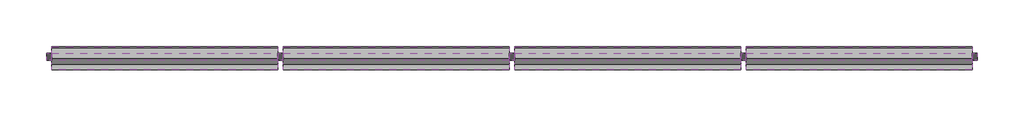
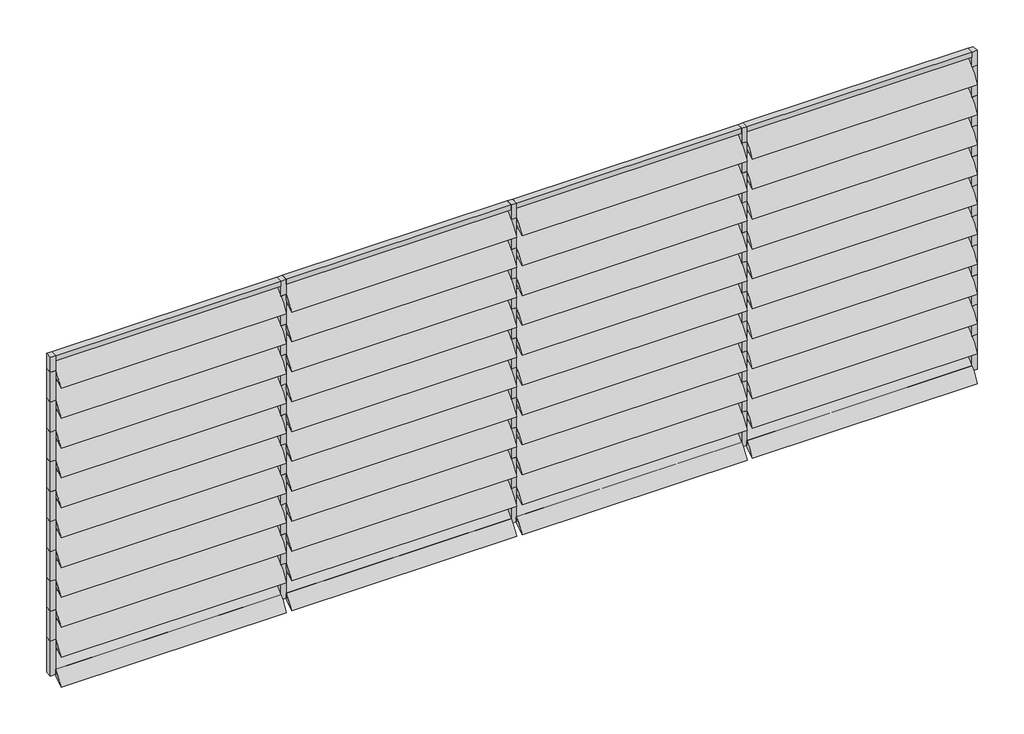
# One storey: 63 members, 44 plates.
"""IFC4 building model written with IfcOpenShell, lengths in millimetres."""

from ifc_helpers import new_model, si_unit, origin, place, context, project, spatial, transform, mapped, element, save
from components import rectangular_mullion_50mm_x_65mm_98092e04, rectangular_mullion_50mm_x_65mm_1a03be0f, rectangular_mullion_50mm_x_65mm_1b69131a, rectangular_mullion_50mm_x_65mm_203c95b3, rectangular_mullion_50mm_x_65mm_badf7e47, rectangular_mullion_50mm_x_65mm_3efa6989, rectangular_mullion_50mm_x_65mm_dbc77acd, arq_painel_brise_horizontal_arq_painel_brise_horizontal_309e50f0

model = new_model("IFC4")

# Units and contexts
model_context = context("Model", 3, world=origin())
ifc_project = project(units=[si_unit("LENGTHUNIT", "METRE", prefix="MILLI")], contexts=[model_context])

# Site, building, storey
site = spatial("IfcSite", under=ifc_project)
building = spatial("IfcBuilding", under=site)
storey = spatial("IfcBuildingStorey", under=building, Name="Nível 1", Elevation=0.0)

# Members
placement = place(None, origin())
rectangular_mullion_50mm_x_65mm_shape = rectangular_mullion_50mm_x_65mm_98092e04(model_context)
element("IfcMember", 1, ObjectType="Rectangular Mullion : 50mm x 65mm", at=placement, inside=storey, context=model_context, shape_type="MappedRepresentation", body=[
    mapped(rectangular_mullion_50mm_x_65mm_shape, transform((5463.4597769, 397.5999507, 3200.0), x_axis=(0.0, 0.0, 1.0), y_axis=(0.0, -1.0, 0.0), z_axis=(1.0, 0.0, 0.0))),
])
element("IfcMember", 2, ObjectType="Rectangular Mullion : 50mm x 65mm", at=placement, inside=storey, context=model_context, shape_type="MappedRepresentation", body=[
    mapped(rectangular_mullion_50mm_x_65mm_shape, transform((-1099.040223, 397.5999507, 3200.0), x_axis=(0.0, 0.0, 1.0), y_axis=(0.0, -1.0, 0.0), z_axis=(1.0, 0.0, 0.0))),
])
element("IfcMember", 3, ObjectType="Rectangular Mullion : 50mm x 65mm", at=placement, inside=storey, context=model_context, shape_type="MappedRepresentation", body=[
    mapped(rectangular_mullion_50mm_x_65mm_shape, transform((1088.4597769, 397.5999507, 3200.0), x_axis=(0.0, 0.0, 1.0), y_axis=(0.0, -1.0, 0.0), z_axis=(1.0, 0.0, 0.0))),
])
element("IfcMember", 4, ObjectType="Rectangular Mullion : 50mm x 65mm", at=placement, inside=storey, context=model_context, shape_type="MappedRepresentation", body=[
    mapped(rectangular_mullion_50mm_x_65mm_shape, transform((3275.9597767, 397.5999507, 3200.0), x_axis=(0.0, 0.0, 1.0), y_axis=(0.0, -1.0, 0.0), z_axis=(1.0, 0.0, 0.0))),
])
element("IfcMember", 5, ObjectType="Rectangular Mullion : 50mm x 65mm", at=placement, inside=storey, context=model_context, shape_type="MappedRepresentation", body=[
    mapped(rectangular_mullion_50mm_x_65mm_shape, transform((-3236.5402231, 397.5999507, 0.0), x_axis=(0.0, 0.0, -1.0), y_axis=(0.0, -1.0, 0.0), z_axis=(-1.0, 0.0, 0.0))),
])
element("IfcMember", 6, ObjectType="Rectangular Mullion : 50mm x 65mm", at=placement, inside=storey, context=model_context, shape_type="MappedRepresentation", body=[
    mapped(rectangular_mullion_50mm_x_65mm_shape, transform((-1049.040223, 397.5999507, 0.0), x_axis=(0.0, 0.0, -1.0), y_axis=(0.0, -1.0, 0.0), z_axis=(-1.0, 0.0, 0.0))),
])
element("IfcMember", 7, ObjectType="Rectangular Mullion : 50mm x 65mm", at=placement, inside=storey, context=model_context, shape_type="MappedRepresentation", body=[
    mapped(rectangular_mullion_50mm_x_65mm_shape, transform((1138.4597769, 397.5999507, 0.0), x_axis=(0.0, 0.0, -1.0), y_axis=(0.0, -1.0, 0.0), z_axis=(-1.0, 0.0, 0.0))),
])
element("IfcMember", 8, ObjectType="Rectangular Mullion : 50mm x 65mm", at=placement, inside=storey, context=model_context, shape_type="MappedRepresentation", body=[
    mapped(rectangular_mullion_50mm_x_65mm_shape, transform((3325.9597767, 397.5999507, 0.0), x_axis=(0.0, 0.0, -1.0), y_axis=(0.0, -1.0, 0.0), z_axis=(-1.0, 0.0, 0.0))),
])
rectangular_mullion_50mm_x_65mm_2_shape = rectangular_mullion_50mm_x_65mm_1a03be0f(model_context)
element("IfcMember", 9, ObjectType="Rectangular Mullion : 50mm x 65mm", at=placement, inside=storey, context=model_context, shape_type="MappedRepresentation", body=[
    mapped(rectangular_mullion_50mm_x_65mm_2_shape, transform((-1074.040223, 397.5999507, 0.0), x_axis=(1.0, 0.0, 0.0), y_axis=(0.0, -1.0, 0.0), z_axis=(0.0, 0.0, -1.0))),
])
element("IfcMember", 10, ObjectType="Rectangular Mullion : 50mm x 65mm", at=placement, inside=storey, context=model_context, shape_type="MappedRepresentation", body=[
    mapped(rectangular_mullion_50mm_x_65mm_2_shape, transform((1113.4597769, 397.5999507, 0.0), x_axis=(1.0, 0.0, 0.0), y_axis=(0.0, -1.0, 0.0), z_axis=(0.0, 0.0, -1.0))),
])
element("IfcMember", 11, ObjectType="Rectangular Mullion : 50mm x 65mm", at=placement, inside=storey, context=model_context, shape_type="MappedRepresentation", body=[
    mapped(rectangular_mullion_50mm_x_65mm_2_shape, transform((3300.9597767, 397.5999507, 0.0), x_axis=(1.0, 0.0, 0.0), y_axis=(0.0, -1.0, 0.0), z_axis=(0.0, 0.0, -1.0))),
])
rectangular_mullion_50mm_x_65mm_3_shape = rectangular_mullion_50mm_x_65mm_1b69131a(model_context)
element("IfcMember", 12, ObjectType="Rectangular Mullion : 50mm x 65mm", at=placement, inside=storey, context=model_context, shape_type="MappedRepresentation", body=[
    mapped(rectangular_mullion_50mm_x_65mm_3_shape, transform((-1074.040223, 397.5999507, 350.0), x_axis=(1.0, 0.0, 0.0), y_axis=(0.0, -1.0, 0.0), z_axis=(0.0, 0.0, -1.0))),
])
element("IfcMember", 13, ObjectType="Rectangular Mullion : 50mm x 65mm", at=placement, inside=storey, context=model_context, shape_type="MappedRepresentation", body=[
    mapped(rectangular_mullion_50mm_x_65mm_3_shape, transform((1113.4597769, 397.5999507, 350.0), x_axis=(1.0, 0.0, 0.0), y_axis=(0.0, -1.0, 0.0), z_axis=(0.0, 0.0, -1.0))),
])
element("IfcMember", 14, ObjectType="Rectangular Mullion : 50mm x 65mm", at=placement, inside=storey, context=model_context, shape_type="MappedRepresentation", body=[
    mapped(rectangular_mullion_50mm_x_65mm_3_shape, transform((3300.9597767, 397.5999507, 350.0), x_axis=(1.0, 0.0, 0.0), y_axis=(0.0, -1.0, 0.0), z_axis=(0.0, 0.0, -1.0))),
])
element("IfcMember", 15, ObjectType="Rectangular Mullion : 50mm x 65mm", at=placement, inside=storey, context=model_context, shape_type="MappedRepresentation", body=[
    mapped(rectangular_mullion_50mm_x_65mm_3_shape, transform((-1074.040223, 397.5999507, 650.0), x_axis=(1.0, 0.0, 0.0), y_axis=(0.0, -1.0, 0.0), z_axis=(0.0, 0.0, -1.0))),
])
element("IfcMember", 16, ObjectType="Rectangular Mullion : 50mm x 65mm", at=placement, inside=storey, context=model_context, shape_type="MappedRepresentation", body=[
    mapped(rectangular_mullion_50mm_x_65mm_3_shape, transform((1113.4597769, 397.5999507, 650.0), x_axis=(1.0, 0.0, 0.0), y_axis=(0.0, -1.0, 0.0), z_axis=(0.0, 0.0, -1.0))),
])
element("IfcMember", 17, ObjectType="Rectangular Mullion : 50mm x 65mm", at=placement, inside=storey, context=model_context, shape_type="MappedRepresentation", body=[
    mapped(rectangular_mullion_50mm_x_65mm_3_shape, transform((3300.9597767, 397.5999507, 650.0), x_axis=(1.0, 0.0, 0.0), y_axis=(0.0, -1.0, 0.0), z_axis=(0.0, 0.0, -1.0))),
])
element("IfcMember", 18, ObjectType="Rectangular Mullion : 50mm x 65mm", at=placement, inside=storey, context=model_context, shape_type="MappedRepresentation", body=[
    mapped(rectangular_mullion_50mm_x_65mm_3_shape, transform((-1074.040223, 397.5999507, 950.0), x_axis=(1.0, 0.0, 0.0), y_axis=(0.0, -1.0, 0.0), z_axis=(0.0, 0.0, -1.0))),
])
element("IfcMember", 19, ObjectType="Rectangular Mullion : 50mm x 65mm", at=placement, inside=storey, context=model_context, shape_type="MappedRepresentation", body=[
    mapped(rectangular_mullion_50mm_x_65mm_3_shape, transform((1113.4597769, 397.5999507, 950.0), x_axis=(1.0, 0.0, 0.0), y_axis=(0.0, -1.0, 0.0), z_axis=(0.0, 0.0, -1.0))),
])
element("IfcMember", 20, ObjectType="Rectangular Mullion : 50mm x 65mm", at=placement, inside=storey, context=model_context, shape_type="MappedRepresentation", body=[
    mapped(rectangular_mullion_50mm_x_65mm_3_shape, transform((3300.9597767, 397.5999507, 950.0), x_axis=(1.0, 0.0, 0.0), y_axis=(0.0, -1.0, 0.0), z_axis=(0.0, 0.0, -1.0))),
])
element("IfcMember", 21, ObjectType="Rectangular Mullion : 50mm x 65mm", at=placement, inside=storey, context=model_context, shape_type="MappedRepresentation", body=[
    mapped(rectangular_mullion_50mm_x_65mm_3_shape, transform((-1074.040223, 397.5999507, 1250.0), x_axis=(1.0, 0.0, 0.0), y_axis=(0.0, -1.0, 0.0), z_axis=(0.0, 0.0, -1.0))),
])
element("IfcMember", 22, ObjectType="Rectangular Mullion : 50mm x 65mm", at=placement, inside=storey, context=model_context, shape_type="MappedRepresentation", body=[
    mapped(rectangular_mullion_50mm_x_65mm_3_shape, transform((1113.4597769, 397.5999507, 1250.0), x_axis=(1.0, 0.0, 0.0), y_axis=(0.0, -1.0, 0.0), z_axis=(0.0, 0.0, -1.0))),
])
element("IfcMember", 23, ObjectType="Rectangular Mullion : 50mm x 65mm", at=placement, inside=storey, context=model_context, shape_type="MappedRepresentation", body=[
    mapped(rectangular_mullion_50mm_x_65mm_3_shape, transform((3300.9597767, 397.5999507, 1250.0), x_axis=(1.0, 0.0, 0.0), y_axis=(0.0, -1.0, 0.0), z_axis=(0.0, 0.0, -1.0))),
])
element("IfcMember", 24, ObjectType="Rectangular Mullion : 50mm x 65mm", at=placement, inside=storey, context=model_context, shape_type="MappedRepresentation", body=[
    mapped(rectangular_mullion_50mm_x_65mm_3_shape, transform((-1074.040223, 397.5999507, 1550.0), x_axis=(1.0, 0.0, 0.0), y_axis=(0.0, -1.0, 0.0), z_axis=(0.0, 0.0, -1.0))),
])
element("IfcMember", 25, ObjectType="Rectangular Mullion : 50mm x 65mm", at=placement, inside=storey, context=model_context, shape_type="MappedRepresentation", body=[
    mapped(rectangular_mullion_50mm_x_65mm_3_shape, transform((1113.4597769, 397.5999507, 1550.0), x_axis=(1.0, 0.0, 0.0), y_axis=(0.0, -1.0, 0.0), z_axis=(0.0, 0.0, -1.0))),
])
element("IfcMember", 26, ObjectType="Rectangular Mullion : 50mm x 65mm", at=placement, inside=storey, context=model_context, shape_type="MappedRepresentation", body=[
    mapped(rectangular_mullion_50mm_x_65mm_3_shape, transform((3300.9597767, 397.5999507, 1550.0), x_axis=(1.0, 0.0, 0.0), y_axis=(0.0, -1.0, 0.0), z_axis=(0.0, 0.0, -1.0))),
])
element("IfcMember", 27, ObjectType="Rectangular Mullion : 50mm x 65mm", at=placement, inside=storey, context=model_context, shape_type="MappedRepresentation", body=[
    mapped(rectangular_mullion_50mm_x_65mm_3_shape, transform((-1074.040223, 397.5999507, 1850.0), x_axis=(1.0, 0.0, 0.0), y_axis=(0.0, -1.0, 0.0), z_axis=(0.0, 0.0, -1.0))),
])
element("IfcMember", 28, ObjectType="Rectangular Mullion : 50mm x 65mm", at=placement, inside=storey, context=model_context, shape_type="MappedRepresentation", body=[
    mapped(rectangular_mullion_50mm_x_65mm_3_shape, transform((1113.4597769, 397.5999507, 1850.0), x_axis=(1.0, 0.0, 0.0), y_axis=(0.0, -1.0, 0.0), z_axis=(0.0, 0.0, -1.0))),
])
element("IfcMember", 29, ObjectType="Rectangular Mullion : 50mm x 65mm", at=placement, inside=storey, context=model_context, shape_type="MappedRepresentation", body=[
    mapped(rectangular_mullion_50mm_x_65mm_3_shape, transform((3300.9597767, 397.5999507, 1850.0), x_axis=(1.0, 0.0, 0.0), y_axis=(0.0, -1.0, 0.0), z_axis=(0.0, 0.0, -1.0))),
])
element("IfcMember", 30, ObjectType="Rectangular Mullion : 50mm x 65mm", at=placement, inside=storey, context=model_context, shape_type="MappedRepresentation", body=[
    mapped(rectangular_mullion_50mm_x_65mm_3_shape, transform((-1074.040223, 397.5999507, 2150.0), x_axis=(1.0, 0.0, 0.0), y_axis=(0.0, -1.0, 0.0), z_axis=(0.0, 0.0, -1.0))),
])
element("IfcMember", 31, ObjectType="Rectangular Mullion : 50mm x 65mm", at=placement, inside=storey, context=model_context, shape_type="MappedRepresentation", body=[
    mapped(rectangular_mullion_50mm_x_65mm_3_shape, transform((1113.4597769, 397.5999507, 2150.0), x_axis=(1.0, 0.0, 0.0), y_axis=(0.0, -1.0, 0.0), z_axis=(0.0, 0.0, -1.0))),
])
element("IfcMember", 32, ObjectType="Rectangular Mullion : 50mm x 65mm", at=placement, inside=storey, context=model_context, shape_type="MappedRepresentation", body=[
    mapped(rectangular_mullion_50mm_x_65mm_3_shape, transform((3300.9597767, 397.5999507, 2150.0), x_axis=(1.0, 0.0, 0.0), y_axis=(0.0, -1.0, 0.0), z_axis=(0.0, 0.0, -1.0))),
])
element("IfcMember", 33, ObjectType="Rectangular Mullion : 50mm x 65mm", at=placement, inside=storey, context=model_context, shape_type="MappedRepresentation", body=[
    mapped(rectangular_mullion_50mm_x_65mm_3_shape, transform((-1074.040223, 397.5999507, 2450.0), x_axis=(1.0, 0.0, 0.0), y_axis=(0.0, -1.0, 0.0), z_axis=(0.0, 0.0, -1.0))),
])
element("IfcMember", 34, ObjectType="Rectangular Mullion : 50mm x 65mm", at=placement, inside=storey, context=model_context, shape_type="MappedRepresentation", body=[
    mapped(rectangular_mullion_50mm_x_65mm_3_shape, transform((1113.4597769, 397.5999507, 2450.0), x_axis=(1.0, 0.0, 0.0), y_axis=(0.0, -1.0, 0.0), z_axis=(0.0, 0.0, -1.0))),
])
element("IfcMember", 35, ObjectType="Rectangular Mullion : 50mm x 65mm", at=placement, inside=storey, context=model_context, shape_type="MappedRepresentation", body=[
    mapped(rectangular_mullion_50mm_x_65mm_3_shape, transform((3300.9597767, 397.5999507, 2450.0), x_axis=(1.0, 0.0, 0.0), y_axis=(0.0, -1.0, 0.0), z_axis=(0.0, 0.0, -1.0))),
])
element("IfcMember", 36, ObjectType="Rectangular Mullion : 50mm x 65mm", at=placement, inside=storey, context=model_context, shape_type="MappedRepresentation", body=[
    mapped(rectangular_mullion_50mm_x_65mm_3_shape, transform((-1074.040223, 397.5999507, 2750.0), x_axis=(1.0, 0.0, 0.0), y_axis=(0.0, -1.0, 0.0), z_axis=(0.0, 0.0, -1.0))),
])
element("IfcMember", 37, ObjectType="Rectangular Mullion : 50mm x 65mm", at=placement, inside=storey, context=model_context, shape_type="MappedRepresentation", body=[
    mapped(rectangular_mullion_50mm_x_65mm_3_shape, transform((1113.4597769, 397.5999507, 2750.0), x_axis=(1.0, 0.0, 0.0), y_axis=(0.0, -1.0, 0.0), z_axis=(0.0, 0.0, -1.0))),
])
element("IfcMember", 38, ObjectType="Rectangular Mullion : 50mm x 65mm", at=placement, inside=storey, context=model_context, shape_type="MappedRepresentation", body=[
    mapped(rectangular_mullion_50mm_x_65mm_3_shape, transform((3300.9597767, 397.5999507, 2750.0), x_axis=(1.0, 0.0, 0.0), y_axis=(0.0, -1.0, 0.0), z_axis=(0.0, 0.0, -1.0))),
])
rectangular_mullion_50mm_x_65mm_4_shape = rectangular_mullion_50mm_x_65mm_203c95b3(model_context)
element("IfcMember", 39, ObjectType="Rectangular Mullion : 50mm x 65mm", at=placement, inside=storey, context=model_context, shape_type="MappedRepresentation", body=[
    mapped(rectangular_mullion_50mm_x_65mm_4_shape, transform((-1074.040223, 397.5999507, 3050.0), x_axis=(1.0, 0.0, 0.0), y_axis=(0.0, -1.0, 0.0), z_axis=(0.0, 0.0, -1.0))),
])
element("IfcMember", 40, ObjectType="Rectangular Mullion : 50mm x 65mm", at=placement, inside=storey, context=model_context, shape_type="MappedRepresentation", body=[
    mapped(rectangular_mullion_50mm_x_65mm_4_shape, transform((1113.4597769, 397.5999507, 3050.0), x_axis=(1.0, 0.0, 0.0), y_axis=(0.0, -1.0, 0.0), z_axis=(0.0, 0.0, -1.0))),
])
element("IfcMember", 41, ObjectType="Rectangular Mullion : 50mm x 65mm", at=placement, inside=storey, context=model_context, shape_type="MappedRepresentation", body=[
    mapped(rectangular_mullion_50mm_x_65mm_4_shape, transform((3300.9597767, 397.5999507, 3050.0), x_axis=(1.0, 0.0, 0.0), y_axis=(0.0, -1.0, 0.0), z_axis=(0.0, 0.0, -1.0))),
])
rectangular_mullion_50mm_x_65mm_5_shape = rectangular_mullion_50mm_x_65mm_badf7e47(model_context)
element("IfcMember", 42, ObjectType="Rectangular Mullion : 50mm x 65mm", at=placement, inside=storey, context=model_context, shape_type="MappedRepresentation", body=[
    mapped(rectangular_mullion_50mm_x_65mm_5_shape, transform((5513.4597769, 397.5999507, 0.0), x_axis=(1.0, 0.0, 0.0), y_axis=(0.0, -1.0, 0.0), z_axis=(0.0, 0.0, -1.0))),
])
rectangular_mullion_50mm_x_65mm_6_shape = rectangular_mullion_50mm_x_65mm_3efa6989(model_context)
element("IfcMember", 43, ObjectType="Rectangular Mullion : 50mm x 65mm", at=placement, inside=storey, context=model_context, shape_type="MappedRepresentation", body=[
    mapped(rectangular_mullion_50mm_x_65mm_6_shape, transform((-3286.5402231, 397.5999507, 3200.0), x_axis=(-1.0, 0.0, 0.0), y_axis=(0.0, -1.0, 0.0), z_axis=(0.0, 0.0, 1.0))),
])
rectangular_mullion_50mm_x_65mm_7_shape = rectangular_mullion_50mm_x_65mm_dbc77acd(model_context)
element("IfcMember", 44, ObjectType="Rectangular Mullion : 50mm x 65mm", at=placement, inside=storey, context=model_context, shape_type="MappedRepresentation", body=[
    mapped(rectangular_mullion_50mm_x_65mm_7_shape, transform((5513.4597769, 397.5999507, 350.0), x_axis=(1.0, 0.0, 0.0), y_axis=(0.0, -1.0, 0.0), z_axis=(0.0, 0.0, -1.0))),
])
element("IfcMember", 45, ObjectType="Rectangular Mullion : 50mm x 65mm", at=placement, inside=storey, context=model_context, shape_type="MappedRepresentation", body=[
    mapped(rectangular_mullion_50mm_x_65mm_7_shape, transform((5513.4597769, 397.5999507, 650.0), x_axis=(1.0, 0.0, 0.0), y_axis=(0.0, -1.0, 0.0), z_axis=(0.0, 0.0, -1.0))),
])
element("IfcMember", 46, ObjectType="Rectangular Mullion : 50mm x 65mm", at=placement, inside=storey, context=model_context, shape_type="MappedRepresentation", body=[
    mapped(rectangular_mullion_50mm_x_65mm_7_shape, transform((5513.4597769, 397.5999507, 950.0), x_axis=(1.0, 0.0, 0.0), y_axis=(0.0, -1.0, 0.0), z_axis=(0.0, 0.0, -1.0))),
])
element("IfcMember", 47, ObjectType="Rectangular Mullion : 50mm x 65mm", at=placement, inside=storey, context=model_context, shape_type="MappedRepresentation", body=[
    mapped(rectangular_mullion_50mm_x_65mm_7_shape, transform((5513.4597769, 397.5999507, 1250.0), x_axis=(1.0, 0.0, 0.0), y_axis=(0.0, -1.0, 0.0), z_axis=(0.0, 0.0, -1.0))),
])
element("IfcMember", 48, ObjectType="Rectangular Mullion : 50mm x 65mm", at=placement, inside=storey, context=model_context, shape_type="MappedRepresentation", body=[
    mapped(rectangular_mullion_50mm_x_65mm_7_shape, transform((5513.4597769, 397.5999507, 1550.0), x_axis=(1.0, 0.0, 0.0), y_axis=(0.0, -1.0, 0.0), z_axis=(0.0, 0.0, -1.0))),
])
element("IfcMember", 49, ObjectType="Rectangular Mullion : 50mm x 65mm", at=placement, inside=storey, context=model_context, shape_type="MappedRepresentation", body=[
    mapped(rectangular_mullion_50mm_x_65mm_7_shape, transform((5513.4597769, 397.5999507, 1850.0), x_axis=(1.0, 0.0, 0.0), y_axis=(0.0, -1.0, 0.0), z_axis=(0.0, 0.0, -1.0))),
])
element("IfcMember", 50, ObjectType="Rectangular Mullion : 50mm x 65mm", at=placement, inside=storey, context=model_context, shape_type="MappedRepresentation", body=[
    mapped(rectangular_mullion_50mm_x_65mm_7_shape, transform((5513.4597769, 397.5999507, 2150.0), x_axis=(1.0, 0.0, 0.0), y_axis=(0.0, -1.0, 0.0), z_axis=(0.0, 0.0, -1.0))),
])
element("IfcMember", 51, ObjectType="Rectangular Mullion : 50mm x 65mm", at=placement, inside=storey, context=model_context, shape_type="MappedRepresentation", body=[
    mapped(rectangular_mullion_50mm_x_65mm_7_shape, transform((5513.4597769, 397.5999507, 2450.0), x_axis=(1.0, 0.0, 0.0), y_axis=(0.0, -1.0, 0.0), z_axis=(0.0, 0.0, -1.0))),
])
element("IfcMember", 52, ObjectType="Rectangular Mullion : 50mm x 65mm", at=placement, inside=storey, context=model_context, shape_type="MappedRepresentation", body=[
    mapped(rectangular_mullion_50mm_x_65mm_7_shape, transform((5513.4597769, 397.5999507, 2750.0), x_axis=(1.0, 0.0, 0.0), y_axis=(0.0, -1.0, 0.0), z_axis=(0.0, 0.0, -1.0))),
])
element("IfcMember", 53, ObjectType="Rectangular Mullion : 50mm x 65mm", at=placement, inside=storey, context=model_context, shape_type="MappedRepresentation", body=[
    mapped(rectangular_mullion_50mm_x_65mm_6_shape, transform((5513.4597769, 397.5999507, 3050.0), x_axis=(1.0, 0.0, 0.0), y_axis=(0.0, -1.0, 0.0), z_axis=(0.0, 0.0, -1.0))),
])
element("IfcMember", 54, ObjectType="Rectangular Mullion : 50mm x 65mm", at=placement, inside=storey, context=model_context, shape_type="MappedRepresentation", body=[
    mapped(rectangular_mullion_50mm_x_65mm_5_shape, transform((-3286.5402231, 397.5999507, 350.0), x_axis=(-1.0, 0.0, 0.0), y_axis=(0.0, -1.0, 0.0), z_axis=(0.0, 0.0, 1.0))),
])
element("IfcMember", 55, ObjectType="Rectangular Mullion : 50mm x 65mm", at=placement, inside=storey, context=model_context, shape_type="MappedRepresentation", body=[
    mapped(rectangular_mullion_50mm_x_65mm_7_shape, transform((-3286.5402231, 397.5999507, 650.0), x_axis=(-1.0, 0.0, 0.0), y_axis=(0.0, -1.0, 0.0), z_axis=(0.0, 0.0, 1.0))),
])
element("IfcMember", 56, ObjectType="Rectangular Mullion : 50mm x 65mm", at=placement, inside=storey, context=model_context, shape_type="MappedRepresentation", body=[
    mapped(rectangular_mullion_50mm_x_65mm_7_shape, transform((-3286.5402231, 397.5999507, 950.0), x_axis=(-1.0, 0.0, 0.0), y_axis=(0.0, -1.0, 0.0), z_axis=(0.0, 0.0, 1.0))),
])
element("IfcMember", 57, ObjectType="Rectangular Mullion : 50mm x 65mm", at=placement, inside=storey, context=model_context, shape_type="MappedRepresentation", body=[
    mapped(rectangular_mullion_50mm_x_65mm_7_shape, transform((-3286.5402231, 397.5999507, 1250.0), x_axis=(-1.0, 0.0, 0.0), y_axis=(0.0, -1.0, 0.0), z_axis=(0.0, 0.0, 1.0))),
])
element("IfcMember", 58, ObjectType="Rectangular Mullion : 50mm x 65mm", at=placement, inside=storey, context=model_context, shape_type="MappedRepresentation", body=[
    mapped(rectangular_mullion_50mm_x_65mm_7_shape, transform((-3286.5402231, 397.5999507, 1550.0), x_axis=(-1.0, 0.0, 0.0), y_axis=(0.0, -1.0, 0.0), z_axis=(0.0, 0.0, 1.0))),
])
element("IfcMember", 59, ObjectType="Rectangular Mullion : 50mm x 65mm", at=placement, inside=storey, context=model_context, shape_type="MappedRepresentation", body=[
    mapped(rectangular_mullion_50mm_x_65mm_7_shape, transform((-3286.5402231, 397.5999507, 1850.0), x_axis=(-1.0, 0.0, 0.0), y_axis=(0.0, -1.0, 0.0), z_axis=(0.0, 0.0, 1.0))),
])
element("IfcMember", 60, ObjectType="Rectangular Mullion : 50mm x 65mm", at=placement, inside=storey, context=model_context, shape_type="MappedRepresentation", body=[
    mapped(rectangular_mullion_50mm_x_65mm_7_shape, transform((-3286.5402231, 397.5999507, 2150.0), x_axis=(-1.0, 0.0, 0.0), y_axis=(0.0, -1.0, 0.0), z_axis=(0.0, 0.0, 1.0))),
])
element("IfcMember", 61, ObjectType="Rectangular Mullion : 50mm x 65mm", at=placement, inside=storey, context=model_context, shape_type="MappedRepresentation", body=[
    mapped(rectangular_mullion_50mm_x_65mm_7_shape, transform((-3286.5402231, 397.5999507, 2450.0), x_axis=(-1.0, 0.0, 0.0), y_axis=(0.0, -1.0, 0.0), z_axis=(0.0, 0.0, 1.0))),
])
element("IfcMember", 62, ObjectType="Rectangular Mullion : 50mm x 65mm", at=placement, inside=storey, context=model_context, shape_type="MappedRepresentation", body=[
    mapped(rectangular_mullion_50mm_x_65mm_7_shape, transform((-3286.5402231, 397.5999507, 2750.0), x_axis=(-1.0, 0.0, 0.0), y_axis=(0.0, -1.0, 0.0), z_axis=(0.0, 0.0, 1.0))),
])
element("IfcMember", 63, ObjectType="Rectangular Mullion : 50mm x 65mm", at=placement, inside=storey, context=model_context, shape_type="MappedRepresentation", body=[
    mapped(rectangular_mullion_50mm_x_65mm_7_shape, transform((-3286.5402231, 397.5999507, 3050.0), x_axis=(-1.0, 0.0, 0.0), y_axis=(0.0, -1.0, 0.0), z_axis=(0.0, 0.0, 1.0))),
])

# Plates
arq_painel_brise_horizontal_arq_painel_brise_horizontal_shape = arq_painel_brise_horizontal_arq_painel_brise_horizontal_309e50f0(model_context)
element("IfcPlate", 64, ObjectType="ARQ_Painel_Brise_Horizontal : ARQ_Painel_Brise_Horizontal", at=placement, inside=storey, context=model_context, shape_type="MappedRepresentation", body=[
    mapped(arq_painel_brise_horizontal_arq_painel_brise_horizontal_shape, transform((-2167.7902231, 397.5999507, 50.0), x_axis=(1.0, 0.0, 0.0), y_axis=(0.0, 1.0, 0.0), z_axis=(0.0, 0.0, 1.0))),
])
element("IfcPlate", 65, ObjectType="ARQ_Painel_Brise_Horizontal : ARQ_Painel_Brise_Horizontal", at=placement, inside=storey, context=model_context, shape_type="MappedRepresentation", body=[
    mapped(arq_painel_brise_horizontal_arq_painel_brise_horizontal_shape, transform((-2167.7902231, 397.5999507, 350.0), x_axis=(1.0, 0.0, 0.0), y_axis=(0.0, 1.0, 0.0), z_axis=(0.0, 0.0, 1.0))),
])
element("IfcPlate", 66, ObjectType="ARQ_Painel_Brise_Horizontal : ARQ_Painel_Brise_Horizontal", at=placement, inside=storey, context=model_context, shape_type="MappedRepresentation", body=[
    mapped(arq_painel_brise_horizontal_arq_painel_brise_horizontal_shape, transform((-2167.7902231, 397.5999507, 650.0), x_axis=(1.0, 0.0, 0.0), y_axis=(0.0, 1.0, 0.0), z_axis=(0.0, 0.0, 1.0))),
])
element("IfcPlate", 67, ObjectType="ARQ_Painel_Brise_Horizontal : ARQ_Painel_Brise_Horizontal", at=placement, inside=storey, context=model_context, shape_type="MappedRepresentation", body=[
    mapped(arq_painel_brise_horizontal_arq_painel_brise_horizontal_shape, transform((-2167.7902231, 397.5999507, 950.0), x_axis=(1.0, 0.0, 0.0), y_axis=(0.0, 1.0, 0.0), z_axis=(0.0, 0.0, 1.0))),
])
element("IfcPlate", 68, ObjectType="ARQ_Painel_Brise_Horizontal : ARQ_Painel_Brise_Horizontal", at=placement, inside=storey, context=model_context, shape_type="MappedRepresentation", body=[
    mapped(arq_painel_brise_horizontal_arq_painel_brise_horizontal_shape, transform((-2167.7902231, 397.5999507, 1250.0), x_axis=(1.0, 0.0, 0.0), y_axis=(0.0, 1.0, 0.0), z_axis=(0.0, 0.0, 1.0))),
])
element("IfcPlate", 69, ObjectType="ARQ_Painel_Brise_Horizontal : ARQ_Painel_Brise_Horizontal", at=placement, inside=storey, context=model_context, shape_type="MappedRepresentation", body=[
    mapped(arq_painel_brise_horizontal_arq_painel_brise_horizontal_shape, transform((-2167.7902231, 397.5999507, 1550.0), x_axis=(1.0, 0.0, 0.0), y_axis=(0.0, 1.0, 0.0), z_axis=(0.0, 0.0, 1.0))),
])
element("IfcPlate", 70, ObjectType="ARQ_Painel_Brise_Horizontal : ARQ_Painel_Brise_Horizontal", at=placement, inside=storey, context=model_context, shape_type="MappedRepresentation", body=[
    mapped(arq_painel_brise_horizontal_arq_painel_brise_horizontal_shape, transform((-2167.7902231, 397.5999507, 1850.0), x_axis=(1.0, 0.0, 0.0), y_axis=(0.0, 1.0, 0.0), z_axis=(0.0, 0.0, 1.0))),
])
element("IfcPlate", 71, ObjectType="ARQ_Painel_Brise_Horizontal : ARQ_Painel_Brise_Horizontal", at=placement, inside=storey, context=model_context, shape_type="MappedRepresentation", body=[
    mapped(arq_painel_brise_horizontal_arq_painel_brise_horizontal_shape, transform((-2167.7902231, 397.5999507, 2150.0), x_axis=(1.0, 0.0, 0.0), y_axis=(0.0, 1.0, 0.0), z_axis=(0.0, 0.0, 1.0))),
])
element("IfcPlate", 72, ObjectType="ARQ_Painel_Brise_Horizontal : ARQ_Painel_Brise_Horizontal", at=placement, inside=storey, context=model_context, shape_type="MappedRepresentation", body=[
    mapped(arq_painel_brise_horizontal_arq_painel_brise_horizontal_shape, transform((-2167.7902231, 397.5999507, 2450.0), x_axis=(1.0, 0.0, 0.0), y_axis=(0.0, 1.0, 0.0), z_axis=(0.0, 0.0, 1.0))),
])
element("IfcPlate", 73, ObjectType="ARQ_Painel_Brise_Horizontal : ARQ_Painel_Brise_Horizontal", at=placement, inside=storey, context=model_context, shape_type="MappedRepresentation", body=[
    mapped(arq_painel_brise_horizontal_arq_painel_brise_horizontal_shape, transform((-2167.7902231, 397.5999507, 2750.0), x_axis=(1.0, 0.0, 0.0), y_axis=(0.0, 1.0, 0.0), z_axis=(0.0, 0.0, 1.0))),
])
element("IfcPlate", 74, ObjectType="ARQ_Painel_Brise_Horizontal : ARQ_Painel_Brise_Horizontal", at=placement, inside=storey, context=model_context, shape_type="MappedRepresentation", body=[
    mapped(arq_painel_brise_horizontal_arq_painel_brise_horizontal_shape, transform((19.7097769, 397.5999507, 50.0), x_axis=(1.0, 0.0, 0.0), y_axis=(0.0, 1.0, 0.0), z_axis=(0.0, 0.0, 1.0))),
])
element("IfcPlate", 75, ObjectType="ARQ_Painel_Brise_Horizontal : ARQ_Painel_Brise_Horizontal", at=placement, inside=storey, context=model_context, shape_type="MappedRepresentation", body=[
    mapped(arq_painel_brise_horizontal_arq_painel_brise_horizontal_shape, transform((19.7097769, 397.5999507, 350.0), x_axis=(1.0, 0.0, 0.0), y_axis=(0.0, 1.0, 0.0), z_axis=(0.0, 0.0, 1.0))),
])
element("IfcPlate", 76, ObjectType="ARQ_Painel_Brise_Horizontal : ARQ_Painel_Brise_Horizontal", at=placement, inside=storey, context=model_context, shape_type="MappedRepresentation", body=[
    mapped(arq_painel_brise_horizontal_arq_painel_brise_horizontal_shape, transform((19.7097769, 397.5999507, 650.0), x_axis=(1.0, 0.0, 0.0), y_axis=(0.0, 1.0, 0.0), z_axis=(0.0, 0.0, 1.0))),
])
element("IfcPlate", 77, ObjectType="ARQ_Painel_Brise_Horizontal : ARQ_Painel_Brise_Horizontal", at=placement, inside=storey, context=model_context, shape_type="MappedRepresentation", body=[
    mapped(arq_painel_brise_horizontal_arq_painel_brise_horizontal_shape, transform((19.7097769, 397.5999507, 950.0), x_axis=(1.0, 0.0, 0.0), y_axis=(0.0, 1.0, 0.0), z_axis=(0.0, 0.0, 1.0))),
])
element("IfcPlate", 78, ObjectType="ARQ_Painel_Brise_Horizontal : ARQ_Painel_Brise_Horizontal", at=placement, inside=storey, context=model_context, shape_type="MappedRepresentation", body=[
    mapped(arq_painel_brise_horizontal_arq_painel_brise_horizontal_shape, transform((19.7097769, 397.5999507, 1250.0), x_axis=(1.0, 0.0, 0.0), y_axis=(0.0, 1.0, 0.0), z_axis=(0.0, 0.0, 1.0))),
])
element("IfcPlate", 79, ObjectType="ARQ_Painel_Brise_Horizontal : ARQ_Painel_Brise_Horizontal", at=placement, inside=storey, context=model_context, shape_type="MappedRepresentation", body=[
    mapped(arq_painel_brise_horizontal_arq_painel_brise_horizontal_shape, transform((19.7097769, 397.5999507, 1550.0), x_axis=(1.0, 0.0, 0.0), y_axis=(0.0, 1.0, 0.0), z_axis=(0.0, 0.0, 1.0))),
])
element("IfcPlate", 80, ObjectType="ARQ_Painel_Brise_Horizontal : ARQ_Painel_Brise_Horizontal", at=placement, inside=storey, context=model_context, shape_type="MappedRepresentation", body=[
    mapped(arq_painel_brise_horizontal_arq_painel_brise_horizontal_shape, transform((19.7097769, 397.5999507, 1850.0), x_axis=(1.0, 0.0, 0.0), y_axis=(0.0, 1.0, 0.0), z_axis=(0.0, 0.0, 1.0))),
])
element("IfcPlate", 81, ObjectType="ARQ_Painel_Brise_Horizontal : ARQ_Painel_Brise_Horizontal", at=placement, inside=storey, context=model_context, shape_type="MappedRepresentation", body=[
    mapped(arq_painel_brise_horizontal_arq_painel_brise_horizontal_shape, transform((19.7097769, 397.5999507, 2150.0), x_axis=(1.0, 0.0, 0.0), y_axis=(0.0, 1.0, 0.0), z_axis=(0.0, 0.0, 1.0))),
])
element("IfcPlate", 82, ObjectType="ARQ_Painel_Brise_Horizontal : ARQ_Painel_Brise_Horizontal", at=placement, inside=storey, context=model_context, shape_type="MappedRepresentation", body=[
    mapped(arq_painel_brise_horizontal_arq_painel_brise_horizontal_shape, transform((19.7097769, 397.5999507, 2450.0), x_axis=(1.0, 0.0, 0.0), y_axis=(0.0, 1.0, 0.0), z_axis=(0.0, 0.0, 1.0))),
])
element("IfcPlate", 83, ObjectType="ARQ_Painel_Brise_Horizontal : ARQ_Painel_Brise_Horizontal", at=placement, inside=storey, context=model_context, shape_type="MappedRepresentation", body=[
    mapped(arq_painel_brise_horizontal_arq_painel_brise_horizontal_shape, transform((19.7097769, 397.5999507, 2750.0), x_axis=(1.0, 0.0, 0.0), y_axis=(0.0, 1.0, 0.0), z_axis=(0.0, 0.0, 1.0))),
])
element("IfcPlate", 84, ObjectType="ARQ_Painel_Brise_Horizontal : ARQ_Painel_Brise_Horizontal", at=placement, inside=storey, context=model_context, shape_type="MappedRepresentation", body=[
    mapped(arq_painel_brise_horizontal_arq_painel_brise_horizontal_shape, transform((2207.2097768, 397.5999507, 50.0), x_axis=(1.0, 0.0, 0.0), y_axis=(0.0, 1.0, 0.0), z_axis=(0.0, 0.0, 1.0))),
])
element("IfcPlate", 85, ObjectType="ARQ_Painel_Brise_Horizontal : ARQ_Painel_Brise_Horizontal", at=placement, inside=storey, context=model_context, shape_type="MappedRepresentation", body=[
    mapped(arq_painel_brise_horizontal_arq_painel_brise_horizontal_shape, transform((2207.2097768, 397.5999507, 350.0), x_axis=(1.0, 0.0, 0.0), y_axis=(0.0, 1.0, 0.0), z_axis=(0.0, 0.0, 1.0))),
])
element("IfcPlate", 86, ObjectType="ARQ_Painel_Brise_Horizontal : ARQ_Painel_Brise_Horizontal", at=placement, inside=storey, context=model_context, shape_type="MappedRepresentation", body=[
    mapped(arq_painel_brise_horizontal_arq_painel_brise_horizontal_shape, transform((2207.2097768, 397.5999507, 650.0), x_axis=(1.0, 0.0, 0.0), y_axis=(0.0, 1.0, 0.0), z_axis=(0.0, 0.0, 1.0))),
])
element("IfcPlate", 87, ObjectType="ARQ_Painel_Brise_Horizontal : ARQ_Painel_Brise_Horizontal", at=placement, inside=storey, context=model_context, shape_type="MappedRepresentation", body=[
    mapped(arq_painel_brise_horizontal_arq_painel_brise_horizontal_shape, transform((2207.2097768, 397.5999507, 950.0), x_axis=(1.0, 0.0, 0.0), y_axis=(0.0, 1.0, 0.0), z_axis=(0.0, 0.0, 1.0))),
])
element("IfcPlate", 88, ObjectType="ARQ_Painel_Brise_Horizontal : ARQ_Painel_Brise_Horizontal", at=placement, inside=storey, context=model_context, shape_type="MappedRepresentation", body=[
    mapped(arq_painel_brise_horizontal_arq_painel_brise_horizontal_shape, transform((2207.2097768, 397.5999507, 1250.0), x_axis=(1.0, 0.0, 0.0), y_axis=(0.0, 1.0, 0.0), z_axis=(0.0, 0.0, 1.0))),
])
element("IfcPlate", 89, ObjectType="ARQ_Painel_Brise_Horizontal : ARQ_Painel_Brise_Horizontal", at=placement, inside=storey, context=model_context, shape_type="MappedRepresentation", body=[
    mapped(arq_painel_brise_horizontal_arq_painel_brise_horizontal_shape, transform((2207.2097768, 397.5999507, 1550.0), x_axis=(1.0, 0.0, 0.0), y_axis=(0.0, 1.0, 0.0), z_axis=(0.0, 0.0, 1.0))),
])
element("IfcPlate", 90, ObjectType="ARQ_Painel_Brise_Horizontal : ARQ_Painel_Brise_Horizontal", at=placement, inside=storey, context=model_context, shape_type="MappedRepresentation", body=[
    mapped(arq_painel_brise_horizontal_arq_painel_brise_horizontal_shape, transform((2207.2097768, 397.5999507, 1850.0), x_axis=(1.0, 0.0, 0.0), y_axis=(0.0, 1.0, 0.0), z_axis=(0.0, 0.0, 1.0))),
])
element("IfcPlate", 91, ObjectType="ARQ_Painel_Brise_Horizontal : ARQ_Painel_Brise_Horizontal", at=placement, inside=storey, context=model_context, shape_type="MappedRepresentation", body=[
    mapped(arq_painel_brise_horizontal_arq_painel_brise_horizontal_shape, transform((2207.2097768, 397.5999507, 2150.0), x_axis=(1.0, 0.0, 0.0), y_axis=(0.0, 1.0, 0.0), z_axis=(0.0, 0.0, 1.0))),
])
element("IfcPlate", 92, ObjectType="ARQ_Painel_Brise_Horizontal : ARQ_Painel_Brise_Horizontal", at=placement, inside=storey, context=model_context, shape_type="MappedRepresentation", body=[
    mapped(arq_painel_brise_horizontal_arq_painel_brise_horizontal_shape, transform((2207.2097768, 397.5999507, 2450.0), x_axis=(1.0, 0.0, 0.0), y_axis=(0.0, 1.0, 0.0), z_axis=(0.0, 0.0, 1.0))),
])
element("IfcPlate", 93, ObjectType="ARQ_Painel_Brise_Horizontal : ARQ_Painel_Brise_Horizontal", at=placement, inside=storey, context=model_context, shape_type="MappedRepresentation", body=[
    mapped(arq_painel_brise_horizontal_arq_painel_brise_horizontal_shape, transform((2207.2097768, 397.5999507, 2750.0), x_axis=(1.0, 0.0, 0.0), y_axis=(0.0, 1.0, 0.0), z_axis=(0.0, 0.0, 1.0))),
])
element("IfcPlate", 94, ObjectType="ARQ_Painel_Brise_Horizontal : ARQ_Painel_Brise_Horizontal", at=placement, inside=storey, context=model_context, shape_type="MappedRepresentation", body=[
    mapped(arq_painel_brise_horizontal_arq_painel_brise_horizontal_shape, transform((4394.7097768, 397.5999507, 50.0), x_axis=(1.0, 0.0, 0.0), y_axis=(0.0, 1.0, 0.0), z_axis=(0.0, 0.0, 1.0))),
])
element("IfcPlate", 95, ObjectType="ARQ_Painel_Brise_Horizontal : ARQ_Painel_Brise_Horizontal", at=placement, inside=storey, context=model_context, shape_type="MappedRepresentation", body=[
    mapped(arq_painel_brise_horizontal_arq_painel_brise_horizontal_shape, transform((4394.7097768, 397.5999507, 350.0), x_axis=(1.0, 0.0, 0.0), y_axis=(0.0, 1.0, 0.0), z_axis=(0.0, 0.0, 1.0))),
])
element("IfcPlate", 96, ObjectType="ARQ_Painel_Brise_Horizontal : ARQ_Painel_Brise_Horizontal", at=placement, inside=storey, context=model_context, shape_type="MappedRepresentation", body=[
    mapped(arq_painel_brise_horizontal_arq_painel_brise_horizontal_shape, transform((4394.7097768, 397.5999507, 650.0), x_axis=(1.0, 0.0, 0.0), y_axis=(0.0, 1.0, 0.0), z_axis=(0.0, 0.0, 1.0))),
])
element("IfcPlate", 97, ObjectType="ARQ_Painel_Brise_Horizontal : ARQ_Painel_Brise_Horizontal", at=placement, inside=storey, context=model_context, shape_type="MappedRepresentation", body=[
    mapped(arq_painel_brise_horizontal_arq_painel_brise_horizontal_shape, transform((4394.7097768, 397.5999507, 950.0), x_axis=(1.0, 0.0, 0.0), y_axis=(0.0, 1.0, 0.0), z_axis=(0.0, 0.0, 1.0))),
])
element("IfcPlate", 98, ObjectType="ARQ_Painel_Brise_Horizontal : ARQ_Painel_Brise_Horizontal", at=placement, inside=storey, context=model_context, shape_type="MappedRepresentation", body=[
    mapped(arq_painel_brise_horizontal_arq_painel_brise_horizontal_shape, transform((4394.7097768, 397.5999507, 1250.0), x_axis=(1.0, 0.0, 0.0), y_axis=(0.0, 1.0, 0.0), z_axis=(0.0, 0.0, 1.0))),
])
element("IfcPlate", 99, ObjectType="ARQ_Painel_Brise_Horizontal : ARQ_Painel_Brise_Horizontal", at=placement, inside=storey, context=model_context, shape_type="MappedRepresentation", body=[
    mapped(arq_painel_brise_horizontal_arq_painel_brise_horizontal_shape, transform((4394.7097768, 397.5999507, 1550.0), x_axis=(1.0, 0.0, 0.0), y_axis=(0.0, 1.0, 0.0), z_axis=(0.0, 0.0, 1.0))),
])
element("IfcPlate", 100, ObjectType="ARQ_Painel_Brise_Horizontal : ARQ_Painel_Brise_Horizontal", at=placement, inside=storey, context=model_context, shape_type="MappedRepresentation", body=[
    mapped(arq_painel_brise_horizontal_arq_painel_brise_horizontal_shape, transform((4394.7097768, 397.5999507, 1850.0), x_axis=(1.0, 0.0, 0.0), y_axis=(0.0, 1.0, 0.0), z_axis=(0.0, 0.0, 1.0))),
])
element("IfcPlate", 101, ObjectType="ARQ_Painel_Brise_Horizontal : ARQ_Painel_Brise_Horizontal", at=placement, inside=storey, context=model_context, shape_type="MappedRepresentation", body=[
    mapped(arq_painel_brise_horizontal_arq_painel_brise_horizontal_shape, transform((4394.7097768, 397.5999507, 2150.0), x_axis=(1.0, 0.0, 0.0), y_axis=(0.0, 1.0, 0.0), z_axis=(0.0, 0.0, 1.0))),
])
element("IfcPlate", 102, ObjectType="ARQ_Painel_Brise_Horizontal : ARQ_Painel_Brise_Horizontal", at=placement, inside=storey, context=model_context, shape_type="MappedRepresentation", body=[
    mapped(arq_painel_brise_horizontal_arq_painel_brise_horizontal_shape, transform((4394.7097768, 397.5999507, 2450.0), x_axis=(1.0, 0.0, 0.0), y_axis=(0.0, 1.0, 0.0), z_axis=(0.0, 0.0, 1.0))),
])
element("IfcPlate", 103, ObjectType="ARQ_Painel_Brise_Horizontal : ARQ_Painel_Brise_Horizontal", at=placement, inside=storey, context=model_context, shape_type="MappedRepresentation", body=[
    mapped(arq_painel_brise_horizontal_arq_painel_brise_horizontal_shape, transform((4394.7097768, 397.5999507, 2750.0), x_axis=(1.0, 0.0, 0.0), y_axis=(0.0, 1.0, 0.0), z_axis=(0.0, 0.0, 1.0))),
])
element("IfcPlate", 104, ObjectType="ARQ_Painel_Brise_Horizontal : ARQ_Painel_Brise_Horizontal", at=placement, inside=storey, context=model_context, shape_type="MappedRepresentation", body=[
    mapped(arq_painel_brise_horizontal_arq_painel_brise_horizontal_shape, transform((-2167.7902231, 397.5999507, 3050.0), x_axis=(1.0, 0.0, 0.0), y_axis=(0.0, 1.0, 0.0), z_axis=(0.0, 0.0, 1.0))),
])
element("IfcPlate", 105, ObjectType="ARQ_Painel_Brise_Horizontal : ARQ_Painel_Brise_Horizontal", at=placement, inside=storey, context=model_context, shape_type="MappedRepresentation", body=[
    mapped(arq_painel_brise_horizontal_arq_painel_brise_horizontal_shape, transform((19.7097769, 397.5999507, 3050.0), x_axis=(1.0, 0.0, 0.0), y_axis=(0.0, 1.0, 0.0), z_axis=(0.0, 0.0, 1.0))),
])
element("IfcPlate", 106, ObjectType="ARQ_Painel_Brise_Horizontal : ARQ_Painel_Brise_Horizontal", at=placement, inside=storey, context=model_context, shape_type="MappedRepresentation", body=[
    mapped(arq_painel_brise_horizontal_arq_painel_brise_horizontal_shape, transform((2207.2097768, 397.5999507, 3050.0), x_axis=(1.0, 0.0, 0.0), y_axis=(0.0, 1.0, 0.0), z_axis=(0.0, 0.0, 1.0))),
])
element("IfcPlate", 107, ObjectType="ARQ_Painel_Brise_Horizontal : ARQ_Painel_Brise_Horizontal", at=placement, inside=storey, context=model_context, shape_type="MappedRepresentation", body=[
    mapped(arq_painel_brise_horizontal_arq_painel_brise_horizontal_shape, transform((4394.7097768, 397.5999507, 3050.0), x_axis=(1.0, 0.0, 0.0), y_axis=(0.0, 1.0, 0.0), z_axis=(0.0, 0.0, 1.0))),
])

save(model, "model.ifc")
